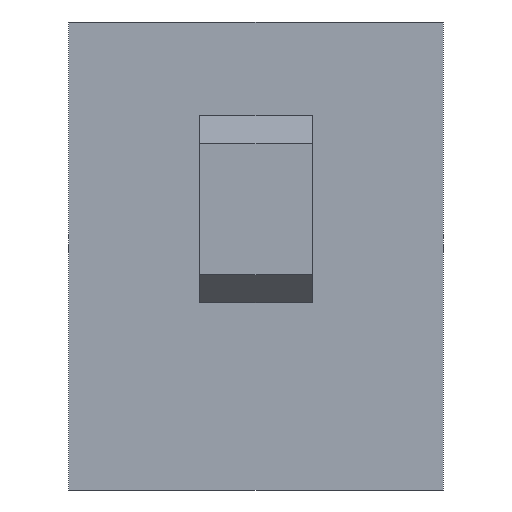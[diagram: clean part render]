
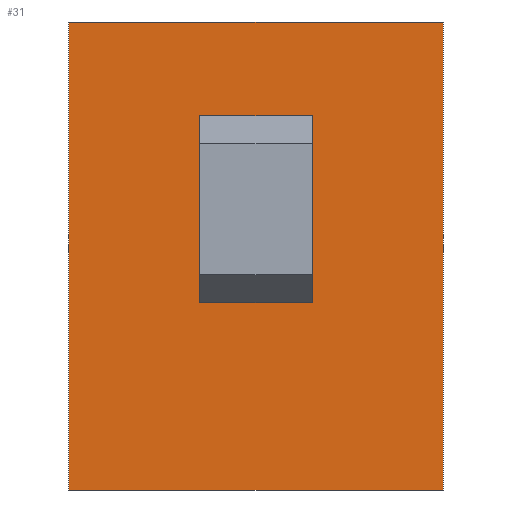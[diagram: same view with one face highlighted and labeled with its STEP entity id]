
A CAD part, front view. The second image highlights one B-rep face of the part: STEP entity #31.
In plain terms, the highlighted planar face has unit normal (0, -1, 0).
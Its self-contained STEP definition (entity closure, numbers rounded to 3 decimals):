
#18 = CARTESIAN_POINT ( 'NONE',  ( 10., -10., -12.5 ) ) ;
#26 = ORIENTED_EDGE ( 'NONE', *, *, #1175, .T. ) ;
#31 = ADVANCED_FACE ( 'NONE', ( #70, #578 ), #1382, .T. ) ;
#36 = AXIS2_PLACEMENT_3D ( 'NONE', #1138, #426, #937 ) ;
#42 = VERTEX_POINT ( 'NONE', #1053 ) ;
#54 = LINE ( 'NONE', #1216, #356 ) ;
#70 = FACE_OUTER_BOUND ( 'NONE', #313, .T. ) ;
#98 = CARTESIAN_POINT ( 'NONE',  ( 5., -10., 5.75 ) ) ;
#113 = VECTOR ( 'NONE', #1103, 1000. ) ;
#147 = CARTESIAN_POINT ( 'NONE',  ( 10., -10., 12.5 ) ) ;
#160 = VERTEX_POINT ( 'NONE', #1084 ) ;
#163 = CARTESIAN_POINT ( 'NONE',  ( 10., -10., 0. ) ) ;
#170 = VERTEX_POINT ( 'NONE', #18 ) ;
#206 = DIRECTION ( 'NONE',  ( 0., 0., -1. ) ) ;
#262 = EDGE_CURVE ( 'NONE', #745, #1254, #1090, .T. ) ;
#277 = EDGE_CURVE ( 'NONE', #170, #745, #1482, .T. ) ;
#279 = DIRECTION ( 'NONE',  ( 1., 0., 0. ) ) ;
#295 = VECTOR ( 'NONE', #802, 1000. ) ;
#300 = DIRECTION ( 'NONE',  ( -1., 0., 0. ) ) ;
#313 = EDGE_LOOP ( 'NONE', ( #568, #26, #1536, #956 ) ) ;
#317 = CARTESIAN_POINT ( 'NONE',  ( 3., -10., 1.25 ) ) ;
#321 = ORIENTED_EDGE ( 'NONE', *, *, #1199, .T. ) ;
#328 = LINE ( 'NONE', #98, #1467 ) ;
#329 = VERTEX_POINT ( 'NONE', #525 ) ;
#356 = VECTOR ( 'NONE', #279, 1000. ) ;
#426 = DIRECTION ( 'NONE',  ( 0., -1., 0. ) ) ;
#449 = ORIENTED_EDGE ( 'NONE', *, *, #778, .T. ) ;
#467 = VECTOR ( 'NONE', #300, 1000. ) ;
#525 = CARTESIAN_POINT ( 'NONE',  ( -10., -10., -12.5 ) ) ;
#568 = ORIENTED_EDGE ( 'NONE', *, *, #262, .T. ) ;
#578 = FACE_BOUND ( 'NONE', #1429, .T. ) ;
#604 = VECTOR ( 'NONE', #1096, 1000. ) ;
#648 = CARTESIAN_POINT ( 'NONE',  ( -3., -10., -0.75 ) ) ;
#745 = VERTEX_POINT ( 'NONE', #147 ) ;
#777 = DIRECTION ( 'NONE',  ( 1., 0., 0. ) ) ;
#778 = EDGE_CURVE ( 'NONE', #852, #1264, #1479, .T. ) ;
#798 = VECTOR ( 'NONE', #206, 1000. ) ;
#802 = DIRECTION ( 'NONE',  ( 0., 0., -1. ) ) ;
#804 = LINE ( 'NONE', #1272, #798 ) ;
#842 = CARTESIAN_POINT ( 'NONE',  ( -10., -10., 12.5 ) ) ;
#852 = VERTEX_POINT ( 'NONE', #648 ) ;
#861 = CARTESIAN_POINT ( 'NONE',  ( -10., -10., 12.5 ) ) ;
#897 = LINE ( 'NONE', #1243, #467 ) ;
#899 = ORIENTED_EDGE ( 'NONE', *, *, #1432, .T. ) ;
#921 = LINE ( 'NONE', #317, #295 ) ;
#937 = DIRECTION ( 'NONE',  ( 0., 0., -1. ) ) ;
#956 = ORIENTED_EDGE ( 'NONE', *, *, #277, .T. ) ;
#992 = EDGE_CURVE ( 'NONE', #329, #170, #54, .T. ) ;
#1053 = CARTESIAN_POINT ( 'NONE',  ( 3., -10., -0.75 ) ) ;
#1084 = CARTESIAN_POINT ( 'NONE',  ( 3., -10., 5.75 ) ) ;
#1090 = LINE ( 'NONE', #861, #113 ) ;
#1096 = DIRECTION ( 'NONE',  ( 0., 0., 1. ) ) ;
#1103 = DIRECTION ( 'NONE',  ( -1., 0., 0. ) ) ;
#1111 = CARTESIAN_POINT ( 'NONE',  ( -3., -10., 1.25 ) ) ;
#1138 = CARTESIAN_POINT ( 'NONE',  ( 10., -10., 0. ) ) ;
#1175 = EDGE_CURVE ( 'NONE', #1254, #329, #804, .T. ) ;
#1188 = ORIENTED_EDGE ( 'NONE', *, *, #1505, .T. ) ;
#1199 = EDGE_CURVE ( 'NONE', #1264, #160, #328, .T. ) ;
#1216 = CARTESIAN_POINT ( 'NONE',  ( -10., -10., -12.5 ) ) ;
#1228 = DIRECTION ( 'NONE',  ( 0., 0., 1. ) ) ;
#1243 = CARTESIAN_POINT ( 'NONE',  ( 5., -10., -0.75 ) ) ;
#1254 = VERTEX_POINT ( 'NONE', #842 ) ;
#1264 = VERTEX_POINT ( 'NONE', #1436 ) ;
#1272 = CARTESIAN_POINT ( 'NONE',  ( -10., -10., 0. ) ) ;
#1358 = VECTOR ( 'NONE', #1228, 1000. ) ;
#1382 = PLANE ( 'NONE',  #36 ) ;
#1429 = EDGE_LOOP ( 'NONE', ( #449, #321, #1188, #899 ) ) ;
#1432 = EDGE_CURVE ( 'NONE', #42, #852, #897, .T. ) ;
#1436 = CARTESIAN_POINT ( 'NONE',  ( -3., -10., 5.75 ) ) ;
#1467 = VECTOR ( 'NONE', #777, 1000. ) ;
#1479 = LINE ( 'NONE', #1111, #604 ) ;
#1482 = LINE ( 'NONE', #163, #1358 ) ;
#1505 = EDGE_CURVE ( 'NONE', #160, #42, #921, .T. ) ;
#1536 = ORIENTED_EDGE ( 'NONE', *, *, #992, .T. ) ;
